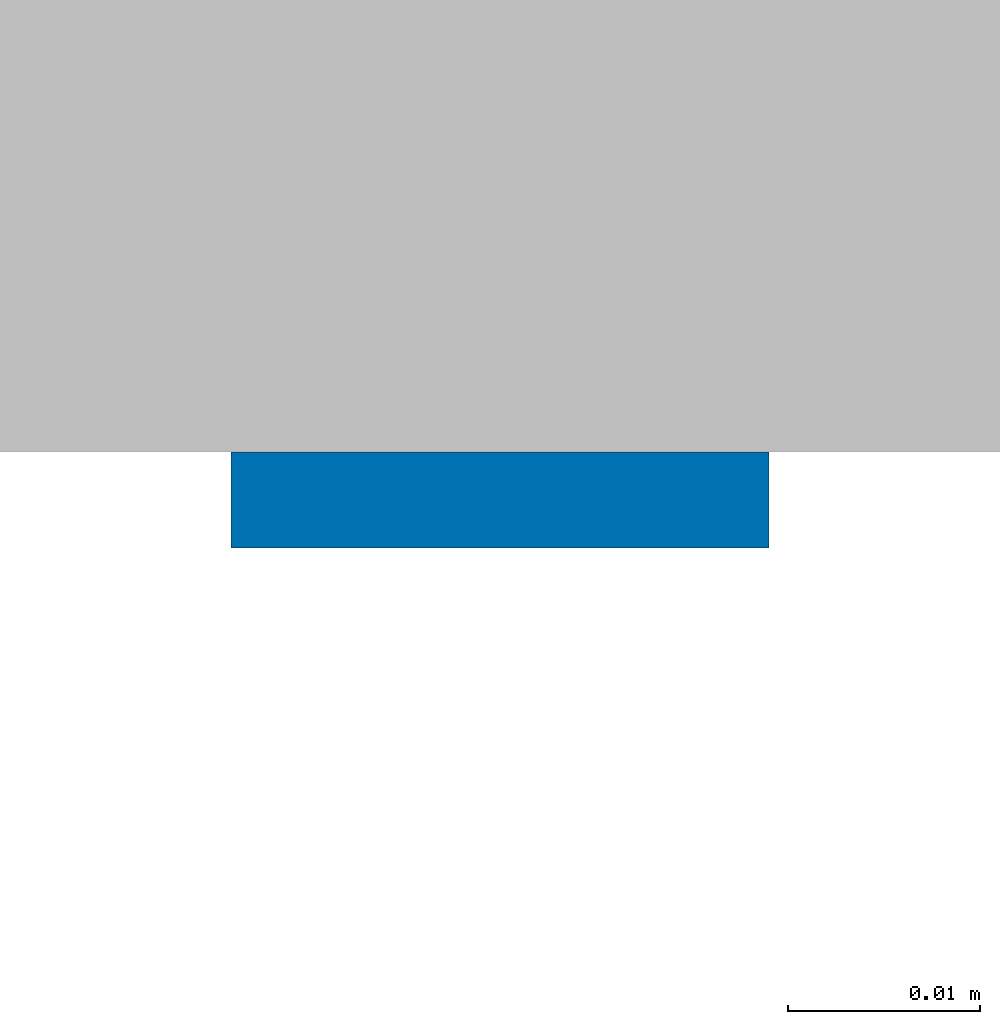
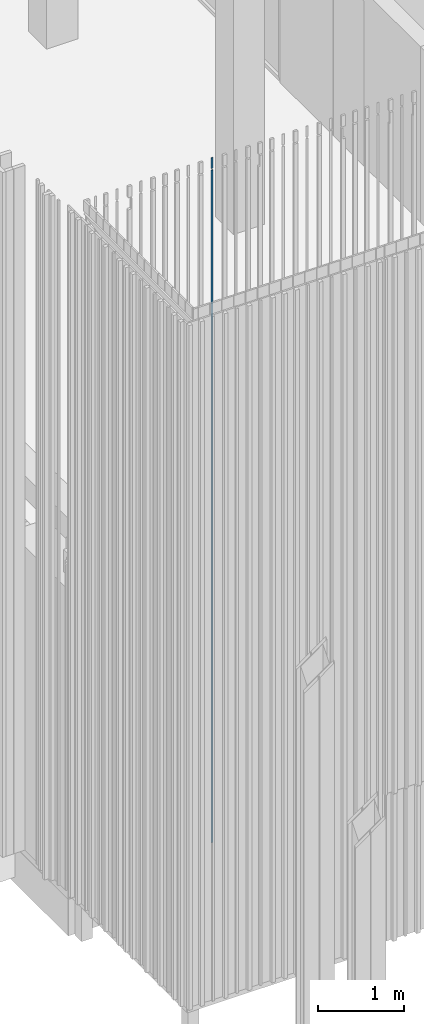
# One storey, part 93 of 390: 1 wall.
"""IFC2X3 building model written with IfcOpenShell, lengths in millimetres."""

from ifc_helpers import new_model, entity, si_unit, converted_unit, derived_unit, money_unit, direction, frame, origin_with_axes, place, context, subcontext, project, spatial, faceted_brep, material, material_list, type_object, element, save


model = new_model("IFC2X3")

# Units and contexts
model_context = context("Model", 3, precision=1e-05, world=origin_with_axes(), true_north=direction((0.0, 1.0)))
body_context = subcontext(model_context, "Body", "Model", "MODEL_VIEW")
ifc_project = project(units=[si_unit("LENGTHUNIT", "METRE", prefix="MILLI"), si_unit("AREAUNIT", "SQUARE_METRE"), si_unit("VOLUMEUNIT", "CUBIC_METRE"), converted_unit("PLANEANGLEUNIT", "DEGREE", entity("IfcPlaneAngleMeasure", 0.0174532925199), si_unit("PLANEANGLEUNIT", "RADIAN"), dimensions=[0, 0, 0, 0, 0, 0, 0]), si_unit("SOLIDANGLEUNIT", "STERADIAN"), money_unit("EUR"), converted_unit("TIMEUNIT", "Year", entity("IfcTimeMeasure", 31556926.0), si_unit("TIMEUNIT", "SECOND"), dimensions=[0, 0, 1, 0, 0, 0, 0]), si_unit("MASSUNIT", "GRAM", prefix="KILO"), si_unit("THERMODYNAMICTEMPERATUREUNIT", "DEGREE_CELSIUS"), si_unit("LUMINOUSINTENSITYUNIT", "LUMEN"), si_unit("ENERGYUNIT", "JOULE", prefix="MEGA"), derived_unit("THERMALCONDUCTANCEUNIT", [(si_unit("POWERUNIT", "WATT"), 1), (si_unit("LENGTHUNIT", "METRE"), -1), (si_unit("THERMODYNAMICTEMPERATUREUNIT", "KELVIN"), -1)]), derived_unit("SPECIFICHEATCAPACITYUNIT", [(si_unit("ENERGYUNIT", "JOULE"), 1), (si_unit("MASSUNIT", "GRAM", prefix="KILO"), -1), (si_unit("THERMODYNAMICTEMPERATUREUNIT", "KELVIN"), -1)]), derived_unit("MASSDENSITYUNIT", [(si_unit("MASSUNIT", "GRAM", prefix="KILO"), 1), (si_unit("VOLUMEUNIT", "CUBIC_METRE"), -1)])], contexts=[model_context])

# Site, building, storey
site_placement = place(None, origin_with_axes())
site = spatial("IfcSite", under=ifc_project, at=site_placement, Name="Site", CompositionType="ELEMENT")
building_placement = place(site_placement, origin_with_axes())
building = spatial("IfcBuilding", under=site, at=building_placement, Name="Building", CompositionType="ELEMENT")
storey_placement = place(building_placement, origin_with_axes())
storey = spatial("IfcBuildingStorey", under=building, at=storey_placement, Name="1 korrus", CompositionType="ELEMENT", Elevation=0.0)

# Wall
ifc_material = material(Name="Site specified")
ifc_material_list = material_list([ifc_material, ifc_material])
wall_type = type_object("IfcWallType", Name="Puitfassaadi ribistik", PredefinedType="NOTDEFINED")
wall_placement = place(storey_placement, frame((124383.999994, 45271.9999634, 100.000000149), z_axis=(0.0, 0.0, 1.0), x_axis=(-1.0, 0.0, 0.0)))
element("IfcWall", 1, at=wall_placement, inside=storey, type_object=wall_type, material=ifc_material_list, Name="Site specified", context=body_context, shape_type="Brep", body=[
    faceted_brep([(14.0, 9.00005130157, -3.12924797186e-06), (14.0, 8.9999549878, 9591.91726162), (-14.0, 8.9999549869, 9591.91726162), (-14.0, 9.00005130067, -3.12924797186e-06), (14.0, 14.0, 0.0), (14.0, 14.0, 9590.85446924), (-14.0, 14.0, 9590.85446924), (-14.0, 14.0, 0.0)], [[[0, 1, 2, 3]], [[4, 5, 1, 0]], [[5, 6, 2, 1]], [[3, 2, 6, 7]], [[0, 3, 7, 4]], [[7, 6, 5, 4]]]),
    faceted_brep([(-14.0, 14.0, 9764.99999985), (-14.0, 14.0, 9612.32362174), (-14.0, 8.99995498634, 9613.38641411), (-14.0, 8.99995498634, 9764.99999985), (14.0, 14.0, 9764.99999985), (14.0, 14.0, 9612.32362174), (14.0, 8.99995498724, 9613.38641411), (14.0, 8.99995498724, 9764.99999985)], [[[0, 1, 2, 3]], [[4, 5, 1, 0]], [[5, 6, 2, 1]], [[3, 2, 6, 7]], [[3, 7, 4, 0]], [[7, 6, 5, 4]]]),
])

save(model, "model.ifc")
